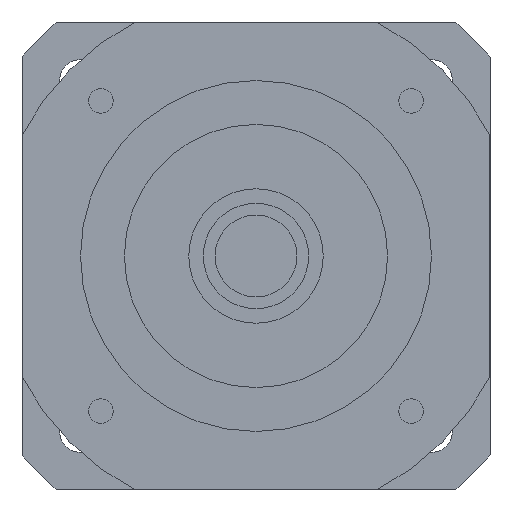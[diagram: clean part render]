
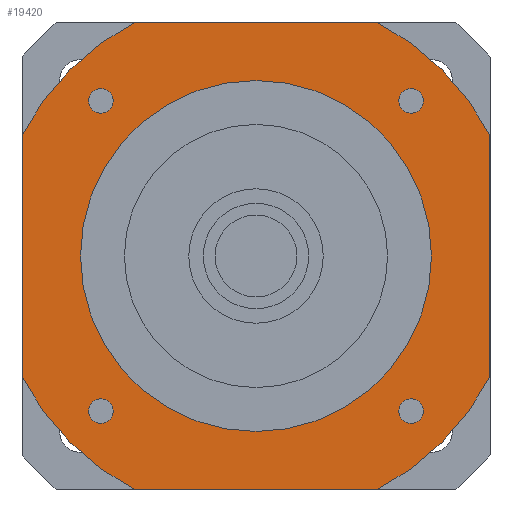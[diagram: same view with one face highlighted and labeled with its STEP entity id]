
A CAD part, left-side view. The second image highlights one B-rep face of the part: STEP entity #19420.
In plain terms, the highlighted planar face has unit normal (-1, 0, 0) as drawn and (0, 0, -1) by its records, which use the part's own axes.
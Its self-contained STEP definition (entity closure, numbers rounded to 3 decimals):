
#13680=CARTESIAN_POINT('',(-40.,-20.616,-42.));
#13690=VERTEX_POINT('',#13680);
#13870=CARTESIAN_POINT('',(-20.616,-40.,-42.));
#13880=VERTEX_POINT('',#13870);
#13910=CARTESIAN_POINT('',(0.,0.,
-42.));
#13920=DIRECTION('',(0.,0.,1.));
#13930=DIRECTION('',(-1.,0.,0.));
#13940=AXIS2_PLACEMENT_3D('',#13910,#13920,#13930);
#13950=CIRCLE('',#13940,45.);
#13960=EDGE_CURVE('',#13690,#13880,#13950,.T.);
#17860=CARTESIAN_POINT('',(40.,40.,-42.));
#17870=DIRECTION('',(0.,0.,1.));
#17880=DIRECTION('',(-1.,0.,0.));
#17890=AXIS2_PLACEMENT_3D('',#17860,#17870,#17880);
#17900=PLANE('',#17890);
#17910=CARTESIAN_POINT('',(-26.517,26.517,-42.));
#17920=DIRECTION('',(0.,0.,-1.));
#17930=DIRECTION('',(0.,-1.,0.));
#17940=AXIS2_PLACEMENT_3D('',#17910,#17920,#17930);
#17950=CIRCLE('',#17940,2.1);
#17960=CARTESIAN_POINT('',(-26.517,24.417,-42.));
#17970=VERTEX_POINT('',#17960);
#17980=CARTESIAN_POINT('',(-28.617,26.517,-42.));
#17990=VERTEX_POINT('',#17980);
#18000=EDGE_CURVE('',#17970,#17990,#17950,.T.);
#18010=ORIENTED_EDGE('',*,*,#18000,.F.);
#18020=CARTESIAN_POINT('',(-24.417,26.517,-42.));
#18030=VERTEX_POINT('',#18020);
#18040=EDGE_CURVE('',#17990,#18030,#17950,.T.);
#18050=ORIENTED_EDGE('',*,*,#18040,.F.);
#18060=EDGE_CURVE('',#18030,#17970,#17950,.T.);
#18070=ORIENTED_EDGE('',*,*,#18060,.F.);
#18080=EDGE_LOOP('',(#18070,#18050,#18010));
#18090=FACE_BOUND('',#18080,.T.);
#18100=CARTESIAN_POINT('',(26.517,26.517,-42.));
#18110=DIRECTION('',(0.,0.,-1.));
#18120=DIRECTION('',(0.,-1.,0.));
#18130=AXIS2_PLACEMENT_3D('',#18100,#18110,#18120);
#18140=CIRCLE('',#18130,2.1);
#18150=CARTESIAN_POINT('',(26.517,24.417,-42.));
#18160=VERTEX_POINT('',#18150);
#18170=CARTESIAN_POINT('',(24.417,26.517,-42.));
#18180=VERTEX_POINT('',#18170);
#18190=EDGE_CURVE('',#18160,#18180,#18140,.T.);
#18200=ORIENTED_EDGE('',*,*,#18190,.F.);
#18210=CARTESIAN_POINT('',(28.617,26.517,-42.));
#18220=VERTEX_POINT('',#18210);
#18230=EDGE_CURVE('',#18180,#18220,#18140,.T.);
#18240=ORIENTED_EDGE('',*,*,#18230,.F.);
#18250=EDGE_CURVE('',#18220,#18160,#18140,.T.);
#18260=ORIENTED_EDGE('',*,*,#18250,.F.);
#18270=EDGE_LOOP('',(#18260,#18240,#18200));
#18280=FACE_BOUND('',#18270,.T.);
#18290=CARTESIAN_POINT('',(26.517,-26.517,-42.));
#18300=DIRECTION('',(0.,0.,-1.));
#18310=DIRECTION('',(0.,-1.,0.));
#18320=AXIS2_PLACEMENT_3D('',#18290,#18300,#18310);
#18330=CIRCLE('',#18320,2.1);
#18340=CARTESIAN_POINT('',(26.517,-28.617,-42.));
#18350=VERTEX_POINT('',#18340);
#18360=CARTESIAN_POINT('',(24.417,-26.517,-42.));
#18370=VERTEX_POINT('',#18360);
#18380=EDGE_CURVE('',#18350,#18370,#18330,.T.);
#18390=ORIENTED_EDGE('',*,*,#18380,.F.);
#18400=CARTESIAN_POINT('',(28.617,-26.517,-42.));
#18410=VERTEX_POINT('',#18400);
#18420=EDGE_CURVE('',#18370,#18410,#18330,.T.);
#18430=ORIENTED_EDGE('',*,*,#18420,.F.);
#18440=EDGE_CURVE('',#18410,#18350,#18330,.T.);
#18450=ORIENTED_EDGE('',*,*,#18440,.F.);
#18460=EDGE_LOOP('',(#18450,#18430,#18390));
#18470=FACE_BOUND('',#18460,.T.);
#18480=CARTESIAN_POINT('',(0.,0.,
-42.));
#18490=DIRECTION('',(0.,0.,1.));
#18500=DIRECTION('',(1.,0.,0.));
#18510=AXIS2_PLACEMENT_3D('',#18480,#18490,#18500);
#18520=CIRCLE('',#18510,30.);
#18530=CARTESIAN_POINT('',(30.,0.,-42.));
#18540=VERTEX_POINT('',#18530);
#18550=CARTESIAN_POINT('',(-30.,0.,-42.));
#18560=VERTEX_POINT('',#18550);
#18570=EDGE_CURVE('',#18540,#18560,#18520,.T.);
#18580=ORIENTED_EDGE('',*,*,#18570,.T.);
#18590=EDGE_CURVE('',#18560,#18540,#18520,.T.);
#18600=ORIENTED_EDGE('',*,*,#18590,.T.);
#18610=EDGE_LOOP('',(#18600,#18580));
#18620=FACE_BOUND('',#18610,.T.);
#18630=CARTESIAN_POINT('',(-26.517,-26.517,-42.));
#18640=DIRECTION('',(0.,0.,-1.));
#18650=DIRECTION('',(0.,-1.,0.));
#18660=AXIS2_PLACEMENT_3D('',#18630,#18640,#18650);
#18670=CIRCLE('',#18660,2.1);
#18680=CARTESIAN_POINT('',(-26.517,-28.617,-42.));
#18690=VERTEX_POINT('',#18680);
#18700=CARTESIAN_POINT('',(-28.617,-26.517,-42.));
#18710=VERTEX_POINT('',#18700);
#18720=EDGE_CURVE('',#18690,#18710,#18670,.T.);
#18730=ORIENTED_EDGE('',*,*,#18720,.F.);
#18740=CARTESIAN_POINT('',(-24.417,-26.517,-42.));
#18750=VERTEX_POINT('',#18740);
#18760=EDGE_CURVE('',#18710,#18750,#18670,.T.);
#18770=ORIENTED_EDGE('',*,*,#18760,.F.);
#18780=EDGE_CURVE('',#18750,#18690,#18670,.T.);
#18790=ORIENTED_EDGE('',*,*,#18780,.F.);
#18800=EDGE_LOOP('',(#18790,#18770,#18730));
#18810=FACE_BOUND('',#18800,.T.);
#18820=ORIENTED_EDGE('',*,*,#13960,.F.);
#18830=CARTESIAN_POINT('',(-40.,-40.,-42.));
#18840=DIRECTION('',(1.,0.,0.));
#18850=VECTOR('',#18840,1000.);
#18860=LINE('',#18830,#18850);
#18870=CARTESIAN_POINT('',(20.616,-40.,-42.));
#18880=VERTEX_POINT('',#18870);
#18890=EDGE_CURVE('',#13880,#18880,#18860,.T.);
#18900=ORIENTED_EDGE('',*,*,#18890,.F.);
#18910=CARTESIAN_POINT('',(0.,0.,
-42.));
#18920=DIRECTION('',(0.,0.,1.));
#18930=DIRECTION('',(-1.,0.,0.));
#18940=AXIS2_PLACEMENT_3D('',#18910,#18920,#18930);
#18950=CIRCLE('',#18940,45.);
#18960=CARTESIAN_POINT('',(40.,-20.616,-42.));
#18970=VERTEX_POINT('',#18960);
#18980=EDGE_CURVE('',#18880,#18970,#18950,.T.);
#18990=ORIENTED_EDGE('',*,*,#18980,.F.);
#19000=CARTESIAN_POINT('',(40.,-40.,-42.));
#19010=DIRECTION('',(0.,1.,0.));
#19020=VECTOR('',#19010,1000.);
#19030=LINE('',#19000,#19020);
#19040=CARTESIAN_POINT('',(40.,20.616,-42.));
#19050=VERTEX_POINT('',#19040);
#19060=EDGE_CURVE('',#18970,#19050,#19030,.T.);
#19070=ORIENTED_EDGE('',*,*,#19060,.F.);
#19080=CARTESIAN_POINT('',(0.,0.,
-42.));
#19090=DIRECTION('',(0.,0.,1.));
#19100=DIRECTION('',(-1.,0.,0.));
#19110=AXIS2_PLACEMENT_3D('',#19080,#19090,#19100);
#19120=CIRCLE('',#19110,45.);
#19130=CARTESIAN_POINT('',(20.616,40.,-42.));
#19140=VERTEX_POINT('',#19130);
#19150=EDGE_CURVE('',#19050,#19140,#19120,.T.);
#19160=ORIENTED_EDGE('',*,*,#19150,.F.);
#19170=CARTESIAN_POINT('',(40.,40.,-42.));
#19180=DIRECTION('',(-1.,0.,0.));
#19190=VECTOR('',#19180,1000.);
#19200=LINE('',#19170,#19190);
#19210=CARTESIAN_POINT('',(-20.616,40.,-42.));
#19220=VERTEX_POINT('',#19210);
#19230=EDGE_CURVE('',#19140,#19220,#19200,.T.);
#19240=ORIENTED_EDGE('',*,*,#19230,.F.);
#19250=CARTESIAN_POINT('',(0.,0.,
-42.));
#19260=DIRECTION('',(0.,0.,1.));
#19270=DIRECTION('',(-1.,0.,0.));
#19280=AXIS2_PLACEMENT_3D('',#19250,#19260,#19270);
#19290=CIRCLE('',#19280,45.);
#19300=CARTESIAN_POINT('',(-40.,20.616,-42.));
#19310=VERTEX_POINT('',#19300);
#19320=EDGE_CURVE('',#19220,#19310,#19290,.T.);
#19330=ORIENTED_EDGE('',*,*,#19320,.F.);
#19340=CARTESIAN_POINT('',(-40.,40.,-42.));
#19350=DIRECTION('',(0.,-1.,0.));
#19360=VECTOR('',#19350,1000.);
#19370=LINE('',#19340,#19360);
#19380=EDGE_CURVE('',#19310,#13690,#19370,.T.);
#19390=ORIENTED_EDGE('',*,*,#19380,.F.);
#19400=EDGE_LOOP('',(#19390,#19330,#19240,#19160,#19070,#18990,#18900,
#18820));
#19410=FACE_OUTER_BOUND('',#19400,.T.);
#19420=ADVANCED_FACE('',(#18090,#18280,#18470,#18620,#18810,#19410),
#17900,.F.);
